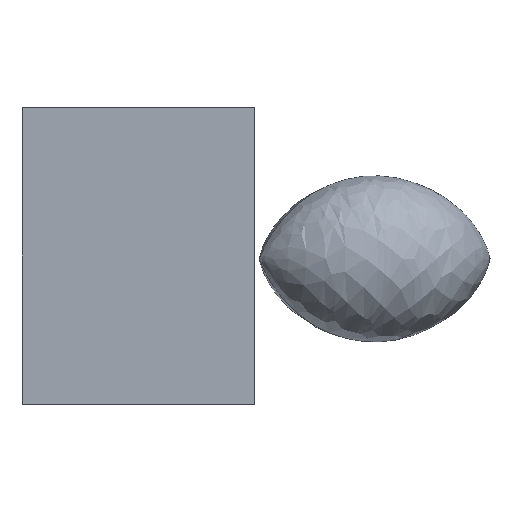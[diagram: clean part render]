
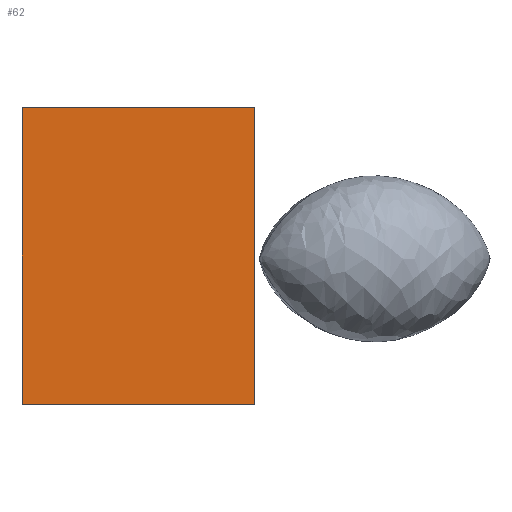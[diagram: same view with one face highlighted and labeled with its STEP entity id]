
A CAD part, front view. The second image highlights one B-rep face of the part: STEP entity #62.
In plain terms, the highlighted free-form (B-spline) face has degree [1, 1] with [2, 2] control points.
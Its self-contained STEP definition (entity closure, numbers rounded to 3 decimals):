
#62=ADVANCED_FACE('',(#72),#174,.T.);
#72=FACE_OUTER_BOUND('',#82,.T.);
#82=EDGE_LOOP('',(#103,#104,#105,#106));
#103=ORIENTED_EDGE('',*,*,#138,.T.);
#104=ORIENTED_EDGE('',*,*,#139,.T.);
#105=ORIENTED_EDGE('',*,*,#129,.F.);
#106=ORIENTED_EDGE('',*,*,#137,.F.);
#129=EDGE_CURVE('',#153,#154,#611,.T.);
#137=EDGE_CURVE('',#159,#153,#619,.T.);
#138=EDGE_CURVE('',#159,#160,#620,.T.);
#139=EDGE_CURVE('',#160,#154,#621,.T.);
#153=VERTEX_POINT('',#267);
#154=VERTEX_POINT('',#268);
#159=VERTEX_POINT('',#273);
#160=VERTEX_POINT('',#274);
#174=B_SPLINE_SURFACE_WITH_KNOTS('',1,1,((#251,#252),(#253,#254)),.UNSPECIFIED.,
.F.,.F.,.F.,(2,2),(2,2),(0.,38.34),(-15.,15.),.UNSPECIFIED.);
#179=CARTESIAN_POINT('',(15.,-6.15,19.543));
#180=CARTESIAN_POINT('',(15.,-6.15,-18.797));
#195=CARTESIAN_POINT('',(-15.,-6.15,19.543));
#196=CARTESIAN_POINT('',(15.,-6.15,19.543));
#197=CARTESIAN_POINT('',(-15.,-6.15,19.543));
#198=CARTESIAN_POINT('',(-15.,-6.15,-18.797));
#199=CARTESIAN_POINT('',(-15.,-6.15,-18.797));
#200=CARTESIAN_POINT('',(15.,-6.15,-18.797));
#251=CARTESIAN_POINT('',(-15.,-6.15,19.543));
#252=CARTESIAN_POINT('',(15.,-6.15,19.543));
#253=CARTESIAN_POINT('',(-15.,-6.15,-18.797));
#254=CARTESIAN_POINT('',(15.,-6.15,-18.797));
#267=CARTESIAN_POINT('',(15.,-6.15,19.543));
#268=CARTESIAN_POINT('',(15.,-6.15,-18.797));
#273=CARTESIAN_POINT('',(-15.,-6.15,19.543));
#274=CARTESIAN_POINT('',(-15.,-6.15,-18.797));
#611=B_SPLINE_CURVE_WITH_KNOTS('',1,(#179,#180),.UNSPECIFIED.,.F.,.F.,(2,
2),(-38.34,0.),.UNSPECIFIED.);
#619=B_SPLINE_CURVE_WITH_KNOTS('',1,(#195,#196),.UNSPECIFIED.,.F.,.F.,(2,
2),(-30.,0.),.UNSPECIFIED.);
#620=B_SPLINE_CURVE_WITH_KNOTS('',1,(#197,#198),.UNSPECIFIED.,.F.,.F.,(2,
2),(0.,38.34),.UNSPECIFIED.);
#621=B_SPLINE_CURVE_WITH_KNOTS('',1,(#199,#200),.UNSPECIFIED.,.F.,.F.,(2,
2),(-30.,0.),.UNSPECIFIED.);
